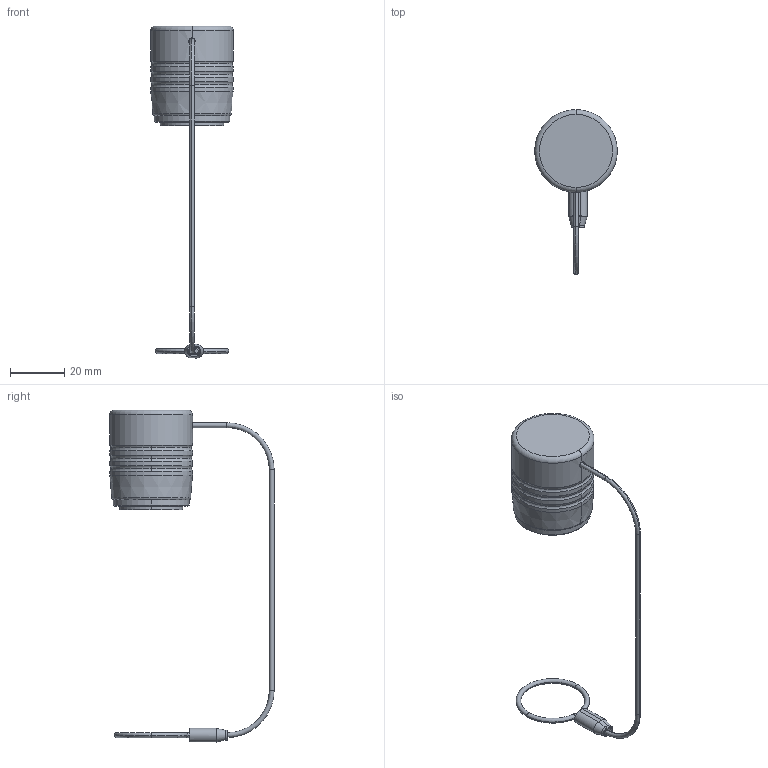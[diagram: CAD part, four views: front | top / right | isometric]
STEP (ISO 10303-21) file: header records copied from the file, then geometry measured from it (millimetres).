
FILE_DESCRIPTION (( 'STEP AP214' ), '1' );
FILE_NAME ('QSEAL-DCPGN - R4.STEP', '2025-04-04T00:27:42', ( '' ), ( '' ), 'SwSTEP 2.0', 'SolidWorks 2024', '' );
FILE_SCHEMA (( 'AUTOMOTIVE_DESIGN' ));
Length unit declared in the file: inch
Products named in the file (1): QSEAL-DCPGN - R4
Bounding box: 30.48 x 60.58 x 122.41 mm (x, y, z)
Volume: 17289.7 mm3; surface area: 8743.2 mm2
Topology: 3 solids, 3 shells, 140 faces, 332 edges, 204 vertices
Faces by surface type: cylinder 58, plane 36, torus 34, cone 8, bspline 4
Entity records: 4753 total; most frequent: CARTESIAN_POINT 1345, DIRECTION 788, ORIENTED_EDGE 664, AXIS2_PLACEMENT_3D 341, EDGE_CURVE 332, VERTEX_POINT 204, CIRCLE 204, EDGE_LOOP 150
